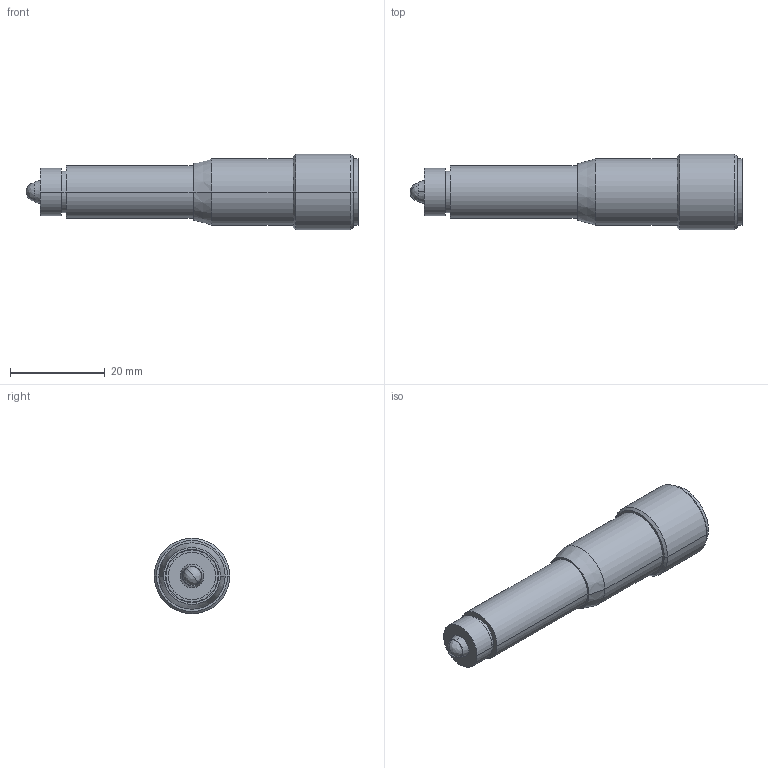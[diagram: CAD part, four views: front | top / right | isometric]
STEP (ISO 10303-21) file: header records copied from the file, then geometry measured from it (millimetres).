
FILE_DESCRIPTION (( 'STEP AP203' ), '1' );
FILE_NAME ('9S75M-20.STEP', '2008-10-23T21:45:20', ( 'Darius' ), ( '' ), 'SwSTEP 2.0', 'SolidWorks 2003240', '' );
FILE_SCHEMA (( 'CONFIG_CONTROL_DESIGN' ));
Length unit declared in the file: millimetre
Products named in the file (1): 9S75M-20
Bounding box: 70.2 x 16 x 16 mm (x, y, z)
Volume: 7011.9 mm3; surface area: 5671.9 mm2
Topology: 1 solids, 3 shells, 173 faces, 440 edges, 289 vertices
Faces by surface type: bspline 73, plane 58, cylinder 28, cone 14
Entity records: 6977 total; most frequent: CARTESIAN_POINT 3154, ORIENTED_EDGE 876, DIRECTION 572, EDGE_CURVE 438, VERTEX_POINT 289, VECTOR 218, LINE 218, EDGE_LOOP 193
